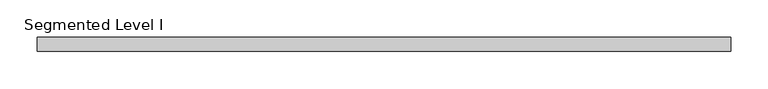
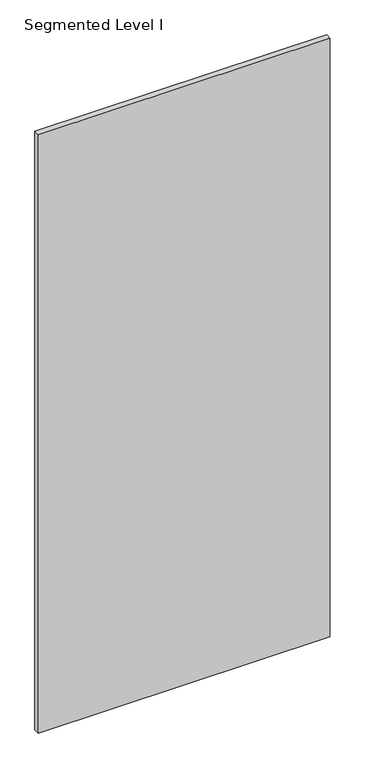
"""IFC4 building model written with IfcOpenShell, lengths in millimetres: proxy geometry, Panel-Fascia-Teknion-Altos-Standard : Segmented Level I."""

from ifc_helpers import new_model, si_unit, frame, origin, place, context, project, spatial, polyline, outline, extrude, source, transform, mapped, element, save


def segmented_level_i_f396c477(model_context):
    return source(origin(), model_context, "Body", "SweptSolid", [
        extrude(outline(polyline([(467.9900391, 9.525), (467.9900391, -9.525), (-467.9900391, -9.525), (-467.9900391, 9.525), (467.9900391, 9.525)])), frame((0.0, 0.0, 3.175), z_axis=(0.0, 0.0, 1.0), x_axis=(1.0, 0.0, 0.0)), (0.0, 0.0, 1.0), 2029.968),
    ])


if __name__ == "__main__":
    model = new_model("IFC4")
    model_context = context("Model", 3, world=origin())
    ifc_project = project(units=[si_unit("LENGTHUNIT", "METRE", prefix="MILLI")], contexts=[model_context])
    site = spatial("IfcSite", under=ifc_project)
    building = spatial("IfcBuilding", under=site)
    placement = place(None, origin())
    segmented_level_i_shape = segmented_level_i_f396c477(model_context)
    element("IfcBuildingElementProxy", 1, Name="Panel-Fascia-Teknion-Altos-Standard : Segmented Level I", ObjectType="Panel-Fascia-Teknion-Altos-Standard : Segmented Level I", at=placement, inside=building, context=model_context, shape_type="MappedRepresentation", body=[
        mapped(segmented_level_i_shape, transform((0.0, 0.0, 0.0), x_axis=(1.0, 0.0, 0.0), y_axis=(0.0, 1.0, 0.0), z_axis=(0.0, 0.0, 1.0))),
    ])
    save(model, "model.ifc")
